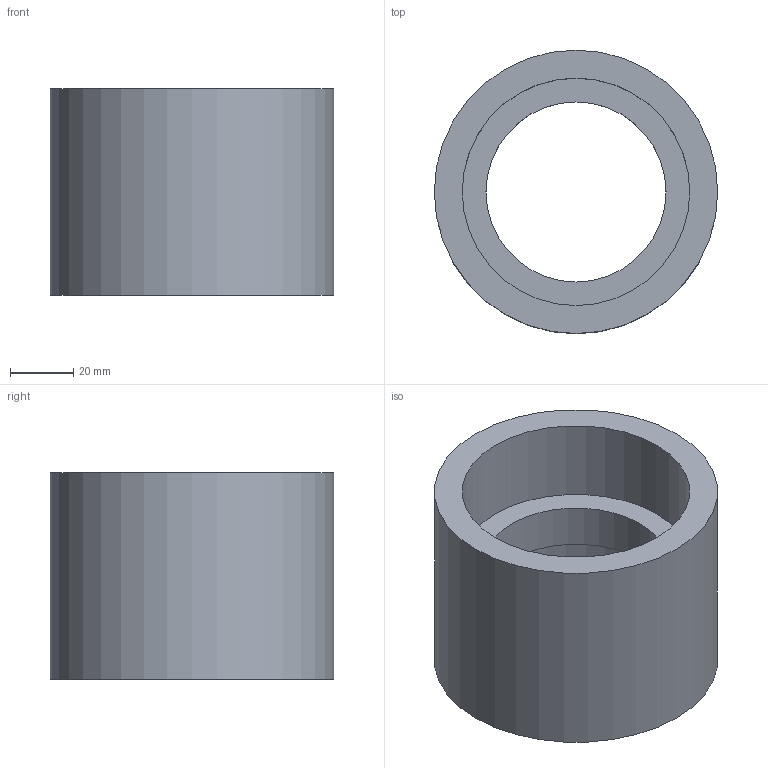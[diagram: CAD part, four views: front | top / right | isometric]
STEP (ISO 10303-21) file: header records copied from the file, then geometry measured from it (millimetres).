
FILE_DESCRIPTION(/* description */ (''),/* implementation_level */ '2;1');
FILE_NAME(/* name */ 'static-base-turret.step',/* time_stamp */ '2026-06-03T23:44:44+01:00',/* author */ (''),/* organization */ (''),/* preprocessor_version */ 'ST-DEVELOPER v20.1',/* originating_system */ 'Autodesk Translation Framework v15.8.0.0',/* authorisation */ '');
FILE_SCHEMA (('AUTOMOTIVE_DESIGN { 1 0 10303 214 3 1 1 }'));
Length unit declared in the file: millimetre
Products named in the file (1): static-base-turret
Bounding box: 89.7 x 89.7 x 65.5 mm (x, y, z)
Volume: 166160.9 mm3; surface area: 42500.9 mm2
Topology: 1 solids, 1 shells, 28 faces, 42 edges, 28 vertices
Faces by surface type: cylinder 14, plane 14
Full cylindrical faces by diameter (mm): 4 x10, 57 x1, 72 x2, 89.7 x1
Entity records: 671 total; most frequent: DIRECTION 128, CARTESIAN_POINT 99, ORIENTED_EDGE 84, AXIS2_PLACEMENT_3D 57, EDGE_LOOP 42, EDGE_CURVE 42, FACE_OUTER_BOUND 28, CIRCLE 28
